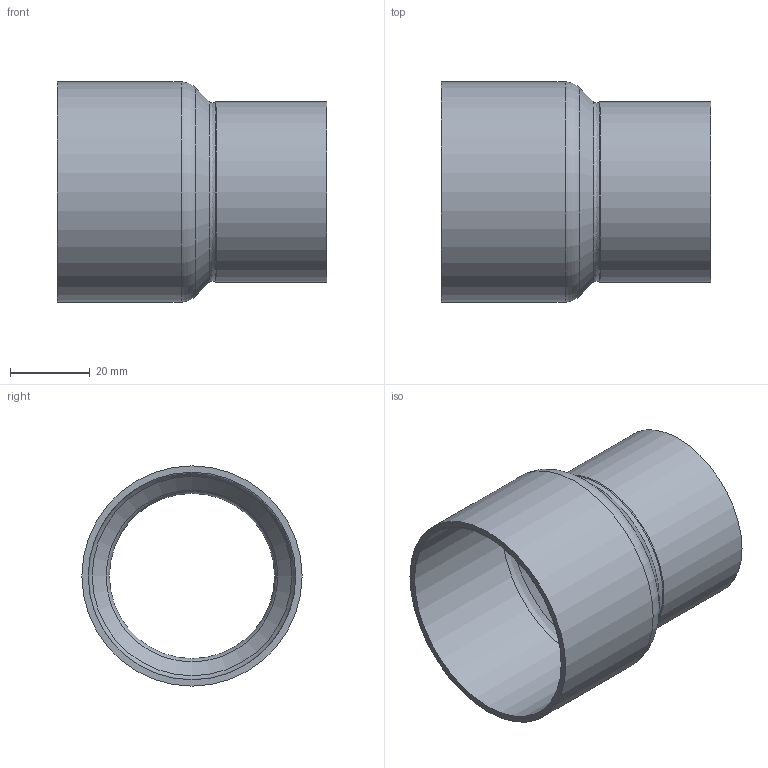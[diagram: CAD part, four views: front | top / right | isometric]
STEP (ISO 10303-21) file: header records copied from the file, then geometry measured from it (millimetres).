
FILE_DESCRIPTION((''),'2;1');
FILE_NAME('G:\SANHA-TERNAT\Technik\Deckel\UUU\Producttek\5000serie\152405242\152405242(0).stp','2013-11-05T09:35:59',('vdvijverd'),(''),'Autodesk Inventor 2009','Autodesk Inventor 2009','');
FILE_SCHEMA(('AUTOMOTIVE_DESIGN { 1 0 10303 214 1 1 1 1 }'));
Length unit declared in the file: millimetre
Products named in the file (1): 152405242(0)
Bounding box: 67.49 x 55.2 x 55.2 mm (x, y, z)
Volume: 17035.4 mm3; surface area: 21778.2 mm2
Topology: 1 solids, 1 shells, 14 faces, 26 edges, 14 vertices
Faces by surface type: cylinder 4, torus 3, bspline 3, cone 2, plane 2
Full cylindrical faces by diameter (mm): 42 x1, 45.2 x1, 52 x1, 55.2 x1
Entity records: 452 total; most frequent: CARTESIAN_POINT 193, DIRECTION 52, ORIENTED_EDGE 28, EDGE_LOOP 28, AXIS2_PLACEMENT_3D 26, VERTEX_POINT 14, CIRCLE 14, EDGE_CURVE 14
